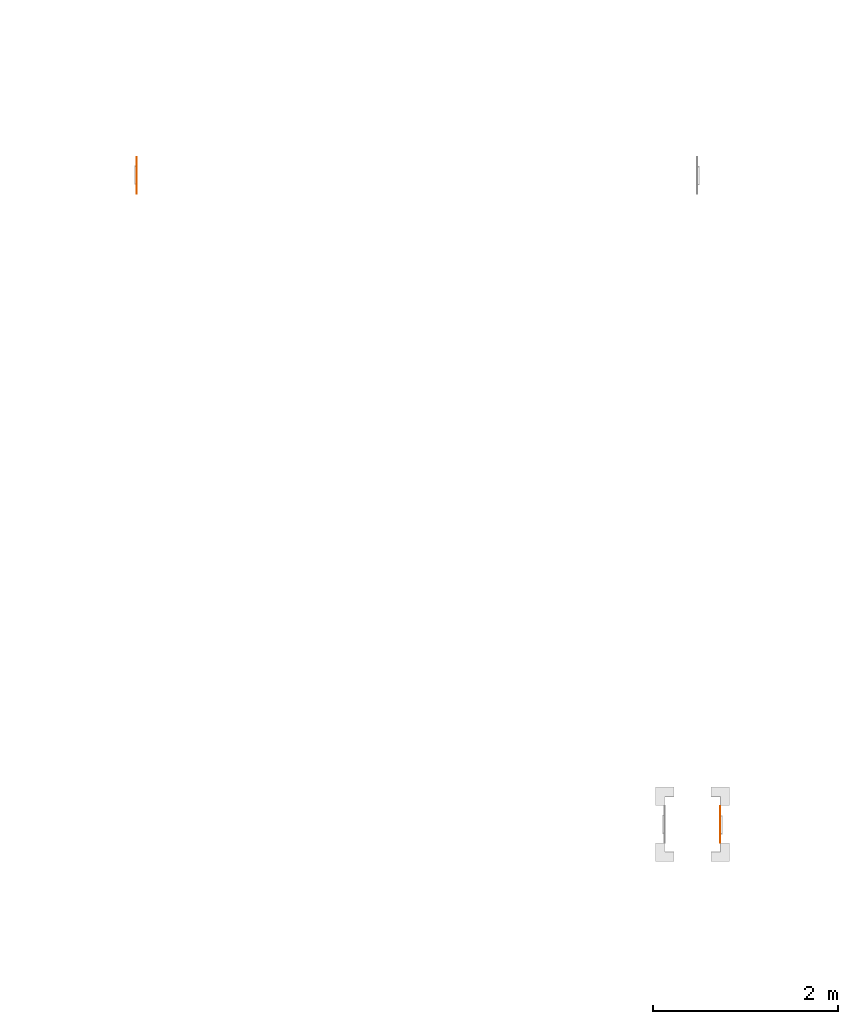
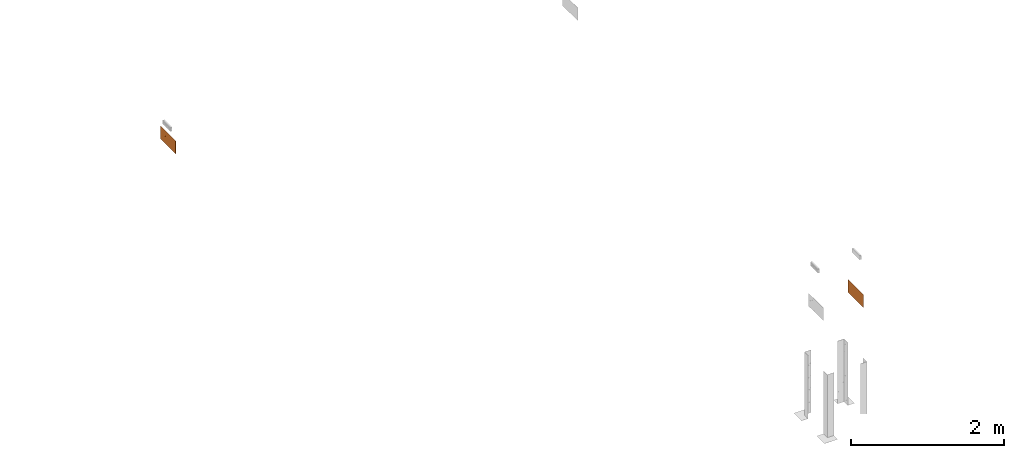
# One storey, part 54 of 119: 2 proxies.
"""IFC2X3 building model written with IfcOpenShell, lengths in metres."""

from ifc_helpers import new_model, entity, si_unit, converted_unit, derived_unit, direction, frame, frame_2d, origin, origin_2d_with_axis, place, context, subcontext, project, spatial, polyline, circle_curve, parameter, trimmed, segment, composite_curve, rectangle, outline, extrude, source, transform, mapped, material, material_list, type_object, type_shapes, element, save


model = new_model("IFC2X3")

# Units and contexts
model_context = context("Model", 3, precision=1e-05, world=origin(), true_north=direction((6.12303176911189e-17, 1.0)))
body_context = subcontext(model_context, "Body", "Model", "MODEL_VIEW")
ifc_project = project(units=[si_unit("LENGTHUNIT", "METRE"), si_unit("AREAUNIT", "SQUARE_METRE"), si_unit("VOLUMEUNIT", "CUBIC_METRE"), converted_unit("PLANEANGLEUNIT", "DEGREE", entity("IfcRatioMeasure", 0.0174532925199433), si_unit("PLANEANGLEUNIT", "RADIAN"), dimensions=[0, 0, 0, 0, 0, 0, 0]), si_unit("MASSUNIT", "GRAM", prefix="KILO"), derived_unit("MASSDENSITYUNIT", [(si_unit("MASSUNIT", "GRAM", prefix="KILO"), 1), (si_unit("LENGTHUNIT", "METRE"), -3)]), derived_unit("MOMENTOFINERTIAUNIT", [(si_unit("LENGTHUNIT", "METRE"), 4)]), si_unit("TIMEUNIT", "SECOND"), si_unit("FREQUENCYUNIT", "HERTZ"), si_unit("THERMODYNAMICTEMPERATUREUNIT", "DEGREE_CELSIUS"), derived_unit("THERMALTRANSMITTANCEUNIT", [(si_unit("MASSUNIT", "GRAM", prefix="KILO"), 1), (si_unit("THERMODYNAMICTEMPERATUREUNIT", "KELVIN"), -1), (si_unit("TIMEUNIT", "SECOND"), -3)]), derived_unit("VOLUMETRICFLOWRATEUNIT", [(si_unit("LENGTHUNIT", "METRE"), 3), (si_unit("TIMEUNIT", "SECOND"), -1)]), si_unit("ELECTRICCURRENTUNIT", "AMPERE"), si_unit("ELECTRICVOLTAGEUNIT", "VOLT"), si_unit("POWERUNIT", "WATT"), si_unit("FORCEUNIT", "NEWTON", prefix="KILO"), si_unit("ILLUMINANCEUNIT", "LUX"), si_unit("LUMINOUSFLUXUNIT", "LUMEN"), si_unit("LUMINOUSINTENSITYUNIT", "CANDELA"), derived_unit("USERDEFINED", [(si_unit("MASSUNIT", "GRAM", prefix="KILO"), -1), (si_unit("LENGTHUNIT", "METRE"), -2), (si_unit("TIMEUNIT", "SECOND"), 3), (si_unit("LUMINOUSFLUXUNIT", "LUMEN"), 1)]), derived_unit("LINEARVELOCITYUNIT", [(si_unit("LENGTHUNIT", "METRE"), 1), (si_unit("TIMEUNIT", "SECOND"), -1)]), si_unit("PRESSUREUNIT", "PASCAL"), derived_unit("USERDEFINED", [(si_unit("LENGTHUNIT", "METRE"), -2), (si_unit("MASSUNIT", "GRAM", prefix="KILO"), 1), (si_unit("TIMEUNIT", "SECOND"), -2)]), derived_unit("LINEARFORCEUNIT", [(si_unit("MASSUNIT", "GRAM", prefix="KILO"), 1), (si_unit("LENGTHUNIT", "METRE"), 1), (si_unit("TIMEUNIT", "SECOND"), -2), (si_unit("LENGTHUNIT", "METRE"), -1)]), derived_unit("PLANARFORCEUNIT", [(si_unit("MASSUNIT", "GRAM", prefix="KILO"), 1), (si_unit("LENGTHUNIT", "METRE"), 1), (si_unit("TIMEUNIT", "SECOND"), -2), (si_unit("LENGTHUNIT", "METRE"), -2)])], contexts=[model_context])

# Site, building, storey
site_placement = place(None, origin())
site = spatial("IfcSite", under=ifc_project, at=site_placement, Name="Default", CompositionType="ELEMENT")
building_placement = place(site_placement, origin())
building = spatial("IfcBuilding", under=site, at=building_placement, CompositionType="ELEMENT")
storey_placement = place(building_placement, origin())
storey = spatial("IfcBuildingStorey", under=building, at=storey_placement, Name="PAV. 01 - TÉRREO", CompositionType="ELEMENT", Elevation=0.0)

# Proxies
ifc_material_1 = material(Name="Plastico branco")
ifc_material_2 = material(Name="Plastico Verde")
ifc_material_list_1 = material_list([ifc_material_1, ifc_material_2])
building_element_proxy_type_1 = type_object("IfcBuildingElementProxyType", Name="Sinalização de orientação - S02 - Indicação do sentido da saída de emergência esquerda:Distância 12m", PredefinedType="NOTDEFINED", material=ifc_material_1)
shared_shape_1 = source(origin(), body_context, "Body", "SweptSolid", [
    extrude(outline(polyline([(-0.0269307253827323, -0.024231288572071), (-0.0259628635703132, -0.024231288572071), (-0.0248498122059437, -0.0234083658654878), (-0.0236286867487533, -0.0219305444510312), (-0.0223366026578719, -0.0199658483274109), (-0.0210106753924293, -0.0176823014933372), (-0.0159905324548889, -0.00832626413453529), (-0.0136800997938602, -0.00426313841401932), (-0.0125256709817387, -0.00238736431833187), (-0.0113513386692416, -0.000610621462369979), (-0.0101417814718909, 0.0010707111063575), (-0.00888166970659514, 0.00266026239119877), (-0.00754048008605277, 0.00417640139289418), (-0.00604105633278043, 0.00568273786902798), (-0.00429732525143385, 0.00725153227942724), (-0.00222321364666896, 0.00895504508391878), (0.000267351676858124, 0.010865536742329), (0.0161156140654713, 0.0220225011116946), (0.00541084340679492, 0.027666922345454), (0.004563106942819, 0.0280964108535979), (0.00398677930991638, 0.0283743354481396), (0.00361343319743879, 0.0285356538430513), (0.00337464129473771, 0.0286153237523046), (0.0032019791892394, 0.0286482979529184), (0.00303386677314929, 0.0286578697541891), (0.00283021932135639, 0.0286307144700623), (0.00255516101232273, 0.02854633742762), (0.00217281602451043, 0.0283842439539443), (0.00164730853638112, 0.0281239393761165), (0.000942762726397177, 0.0277449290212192), (-0.0154440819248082, 0.0179800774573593), (-0.0169906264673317, 0.0173662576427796), (-0.0184263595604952, 0.0170104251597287), (-0.0197467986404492, 0.0168906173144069), (-0.0209474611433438, 0.0169848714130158), (-0.0220238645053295, 0.017271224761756), (-0.0229715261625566, 0.0177277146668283), (-0.0237859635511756, 0.0183323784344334), (-0.0244626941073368, 0.0190632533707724), (-0.0249972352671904, 0.0198983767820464), (-0.025385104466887, 0.0208157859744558), (-0.0256218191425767, 0.0217935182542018), (-0.02570289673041, 0.0228096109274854), (-0.0256238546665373, 0.023842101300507), (-0.0253802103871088, 0.024869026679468), (-0.024967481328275, 0.0258684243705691), (-0.0243811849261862, 0.026818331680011), (-0.0236168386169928, 0.0276967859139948), (-0.022669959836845, 0.0284818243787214), (-0.012358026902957, 0.0349145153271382), (-0.0056365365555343, 0.0389186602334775), (-0.00143098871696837, 0.0410123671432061), (0.00133311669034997, 0.0417137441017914), (0.00371952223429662, 0.0415365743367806), (0.00635115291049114, 0.0408174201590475), (0.00926485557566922, 0.0396572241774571), (0.0124569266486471, 0.0381406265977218), (0.0382522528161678, 0.0245317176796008), (0.0409647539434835, 0.0230291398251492), (0.0432264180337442, 0.021505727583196), (0.0450948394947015, 0.0197223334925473), (0.0466276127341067, 0.0174398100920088), (0.0478823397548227, 0.0144190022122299), (0.0489477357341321, 0.0103891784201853), (0.0500145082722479, 0.00497609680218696), (0.0529984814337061, -0.0115815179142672), (0.0687826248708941, -0.0199385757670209), (0.101976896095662, 0.0427561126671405), (0.00232291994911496, 0.0955188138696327), (-0.0513007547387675, -0.00576130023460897), (-0.0561261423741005, -0.00320645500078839), (-0.0853051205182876, -0.0156605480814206), (-0.0628396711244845, -0.0275550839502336), (-0.0734521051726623, -0.0475990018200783), (-0.0904241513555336, -0.0529832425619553), (-0.0204118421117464, -0.0900518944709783), (-0.00292720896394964, -0.0849390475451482), (0.0122206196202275, -0.0929592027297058), (-0.00693758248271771, -0.0971859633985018), (0.00953030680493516, -0.105905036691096), (0.0262018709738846, -0.100361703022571), (0.0628213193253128, -0.0311978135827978), (0.0451218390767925, -0.0218302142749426), (0.0436304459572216, -0.0209809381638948), (0.0424868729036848, -0.020192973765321), (0.041614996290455, -0.0193663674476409), (0.0409386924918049, -0.0184011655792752), (0.0403818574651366, -0.0171974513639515), (0.0398810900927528, -0.0156792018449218), (0.0394075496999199, -0.0138354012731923), (0.0389382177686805, -0.0116659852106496), (0.0366426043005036, 0.000269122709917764), (0.0172569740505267, -0.0138624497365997), (0.0147941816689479, -0.0880984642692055), (-0.000353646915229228, -0.0800783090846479), (-0.000324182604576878, -0.0142849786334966), (-0.0124368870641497, -0.0319051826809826), (-0.0138384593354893, -0.0341119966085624), (-0.0151491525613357, -0.0360250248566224), (-0.0164165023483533, -0.0376353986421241), (-0.0176880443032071, -0.0389342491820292), (-0.0190113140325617, -0.0399127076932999), (-0.0204338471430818, -0.0405619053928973), (-0.0220031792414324, -0.0408729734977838), (-0.0237668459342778, -0.0408370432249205), (-0.025772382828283, -0.0404452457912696), (-0.0280673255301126, -0.0396887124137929), (-0.0306992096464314, -0.0385585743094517), (-0.0337155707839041, -0.0370459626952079), (-0.0714172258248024, -0.0170844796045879), (-0.0536029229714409, -0.0101094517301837), (-0.0269307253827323, -0.024231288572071)]), holes=[composite_curve([segment(trimmed(circle_curve(frame_2d((0.0517161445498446, 0.0359195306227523), x_axis=(0.883770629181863, -0.46792037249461)), 0.0134), [parameter(180.0)], [parameter(360.0)], True, "PARAMETER"), False, "CONTINUOUS"), segment(trimmed(circle_curve(frame_2d((0.0517161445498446, 0.0359195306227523), x_axis=(0.883770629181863, -0.46792037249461)), 0.0134), [parameter(2.03555499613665e-13)], [parameter(180.0)], True, "PARAMETER"), False, "CONTINUOUS")], self_intersect=False)]), frame((0.112957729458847, -0.00110000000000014, 1.90431633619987), z_axis=(0.0, 1.0, 0.0), x_axis=(-0.883770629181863, 0.0, 0.46792037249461)), (0.0, 0.0, 1.0), 0.0011),
    extrude(outline(polyline([(-0.197500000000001, -0.102500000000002), (0.197500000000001, -0.102500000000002), (0.197500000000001, 0.102500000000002), (-0.197500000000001, 0.102500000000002), (-0.197500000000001, -0.102500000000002)]), holes=[polyline([(-0.190000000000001, -0.0950000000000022), (-0.190000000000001, 0.0949999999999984), (0.189999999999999, 0.0949999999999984), (0.189999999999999, -0.0950000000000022), (-0.190000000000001, -0.0950000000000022)])]), frame((0.0, -0.0011, 1.9025), z_axis=(0.0, 1.0, 0.0), x_axis=(1.0, 0.0, 0.0)), (0.0, 0.0, 1.0), 0.0011),
    extrude(rectangle(XDim=0.38, YDim=0.001, at=origin_2d_with_axis()), frame((0.0, -0.0005, 1.8075)), (0.0, 0.0, 1.0), 0.190000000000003),
    extrude(outline(polyline([(-0.0341511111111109, -0.0575999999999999), (0.016628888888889, -0.0575999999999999), (-0.0218311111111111, -0.0191399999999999), (0.0852288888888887, -0.0191399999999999), (0.0852288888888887, 0.0191400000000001), (-0.0218311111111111, 0.0191400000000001), (0.016628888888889, 0.0576000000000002), (-0.0341511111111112, 0.0576000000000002), (-0.0917511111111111, 0.0), (-0.0341511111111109, -0.0575999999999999)])), frame((-0.0852288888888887, -0.0011, 1.9025), z_axis=(0.0, 1.0, 0.0), x_axis=(1.0, 0.0, 0.0)), (0.0, 0.0, 1.0), 0.0011),
])
type_shapes(building_element_proxy_type_1, [shared_shape_1])
proxy_1_placement = place(storey_placement, frame((46.9738241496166, 0.425057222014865, 0.0), z_axis=(0.0, 0.0, 1.0), x_axis=(0.0, 1.0, 0.0)))
element("IfcBuildingElementProxy", 1, at=proxy_1_placement, inside=storey, type_object=building_element_proxy_type_1, material=ifc_material_list_1, Name="Sinalização de orientação - S02 - Indicação do sentido da saída de emergência esquerda:Distância 12m", ObjectType="Sinalização de orientação - S02 - Indicação do sentido da saída de emergência esquerda:Distância 12m", context=body_context, shape_type="MappedRepresentation", body=[
    mapped(shared_shape_1, transform((0.0, 0.0, 0.0), scale=1.0)),
])
ifc_material_list_2 = material_list([ifc_material_1, ifc_material_2])
building_element_proxy_type_2 = type_object("IfcBuildingElementProxyType", Name="Sinalização de orientação - S03 - Indicação de uma saída de emergência a ser afixada acima da porta:Distância 12m", PredefinedType="NOTDEFINED", material=ifc_material_1)
shared_shape_2 = source(origin(), body_context, "Body", "SweptSolid", [
    extrude(outline(polyline([(0.0124622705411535, 0.0340163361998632), (0.0116069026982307, 0.0335634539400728), (0.0110082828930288, 0.0323153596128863), (0.0106205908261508, 0.0304379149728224), (0.0103980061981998, 0.0280969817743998), (0.0102947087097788, 0.0254584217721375), (0.0102359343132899, 0.01484080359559), (0.0100952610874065, 0.0101688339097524), (0.00995272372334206, 0.00797089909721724), (0.00974625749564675, 0.00585117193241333), (0.00946401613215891, 0.00379928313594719), (0.00909414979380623, 0.00180485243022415), (0.00861827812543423, -0.000162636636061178), (0.00799797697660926, -0.00219550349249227), (0.0071909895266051, -0.00439788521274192), (0.00615505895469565, -0.00687391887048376), (0.00484792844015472, -0.00972774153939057), (0.00322734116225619, -0.0130634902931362), (-0.00393772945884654, -0.0270036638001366), (0.00911414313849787, -0.0269659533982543), (0.00975353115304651, -0.0269418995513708), (0.0101589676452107, -0.0269097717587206), (0.0104072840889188, -0.0268684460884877), (0.0105753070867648, -0.0268167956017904), (0.0107283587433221, -0.026746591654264), (0.0108956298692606, -0.0266273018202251), (0.0110992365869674, -0.0264240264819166), (0.0113612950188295, -0.0261018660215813), (0.0117039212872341, -0.0256259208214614), (0.0121492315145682, -0.0249612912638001), (0.0134363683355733, -0.0229263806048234), (0.0220622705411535, -0.00866366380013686), (0.0231418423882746, -0.00739752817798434), (0.024244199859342, -0.00641124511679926), (0.0253551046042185, -0.00568750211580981), (0.026460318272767, -0.00520898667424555), (0.0275456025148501, -0.00495838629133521), (0.0285967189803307, -0.00491838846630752), (0.0295994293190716, -0.00507168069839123), (0.0305394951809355, -0.00540095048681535), (0.0314026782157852, -0.00588888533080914), (0.0321747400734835, -0.00651817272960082), (0.0328414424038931, -0.00727150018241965), (0.033388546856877, -0.00813155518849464), (0.0338018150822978, -0.00908102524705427), (0.0340670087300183, -0.0101025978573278), (0.0341698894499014, -0.011178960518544), (0.0340962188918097, -0.0122928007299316), (0.0338317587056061, -0.0134268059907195), (0.0333622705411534, -0.0145636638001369), (0.027258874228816, -0.025073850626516), (0.0231922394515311, -0.0317577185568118), (0.020455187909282, -0.0355759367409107), (0.0183405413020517, -0.0374891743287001), (0.0161486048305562, -0.0384492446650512), (0.0134863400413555, -0.0390450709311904), (0.0103684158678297, -0.0393831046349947), (0.00683771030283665, -0.0395364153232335), (-0.0223273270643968, -0.0395794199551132), (-0.0254276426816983, -0.0395207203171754), (-0.0281392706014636, -0.0392326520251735), (-0.0306250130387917, -0.0385308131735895), (-0.0330476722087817, -0.0372308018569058), (-0.0355700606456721, -0.0351482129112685), (-0.0383972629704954, -0.0320852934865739), (-0.0418729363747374, -0.027800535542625), (-0.0522577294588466, -0.0145636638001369), (-0.0701177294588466, -0.0145636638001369), (-0.0701177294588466, -0.0855036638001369), (0.0426422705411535, -0.0855036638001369), (0.0426422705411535, 0.0290963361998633), (0.0481022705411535, 0.0290963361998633), (0.0680622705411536, 0.0537563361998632), (0.0426422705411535, 0.0537563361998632), (0.0426422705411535, 0.0764363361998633), (0.0551222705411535, 0.0891363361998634), (-0.0240977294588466, 0.0891363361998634), (-0.0371577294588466, 0.0764363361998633), (-0.0542977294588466, 0.0764363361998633), (-0.039344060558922, 0.0891363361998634), (-0.0579777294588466, 0.0891363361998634), (-0.0701177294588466, 0.0764363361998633), (-0.0701177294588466, -0.0018236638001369), (-0.050092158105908, -0.00182052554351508), (-0.048376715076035, -0.00187323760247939), (-0.0469973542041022, -0.00203451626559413), (-0.0458400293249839, -0.00235707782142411), (-0.0447906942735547, -0.00289363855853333), (-0.0437353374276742, -0.00369689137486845), (-0.0425823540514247, -0.00480435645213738), (-0.0413011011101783, -0.00621227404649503), (-0.0398712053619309, -0.00790993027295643), (-0.0322577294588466, -0.0173836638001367), (-0.0217377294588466, 0.00417633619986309), (-0.0542977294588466, 0.0709363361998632), (-0.0371577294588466, 0.0709363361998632), (-0.00639772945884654, 0.0127763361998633), (-0.00393772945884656, 0.0340163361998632), (-0.00373167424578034, 0.0366224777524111), (-0.00346846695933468, 0.0389264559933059), (-0.00310194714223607, 0.040942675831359), (-0.00258595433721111, 0.0426855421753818), (-0.0018743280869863, 0.0441694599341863), (-0.000920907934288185, 0.0454088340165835), (0.000320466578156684, 0.0464180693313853), (0.00189595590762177, 0.0472115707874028), (0.00385172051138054, 0.0478037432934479), (0.00623392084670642, 0.0482089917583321), (0.00908871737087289, 0.0484417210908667), (0.0124622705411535, 0.0485163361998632), (0.0551222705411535, 0.0485163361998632), (0.0426422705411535, 0.0340163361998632), (0.0124622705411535, 0.0340163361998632)]), holes=[composite_curve([segment(trimmed(circle_curve(frame_2d((-0.0288977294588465, -0.0559436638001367), x_axis=(-1.0, 0.0)), 0.0134), [parameter(180.0)], [parameter(360.0)], True, "PARAMETER"), False, "CONTINUOUS"), segment(trimmed(circle_curve(frame_2d((-0.0288977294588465, -0.0559436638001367), x_axis=(-1.0, 0.0)), 0.0134), [parameter(2.03555499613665e-13)], [parameter(180.0)], True, "PARAMETER"), False, "CONTINUOUS")], self_intersect=False)]), frame((-0.112057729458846, -0.00109999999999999, 2.30431633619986), z_axis=(0.0, -1.0, 0.0), x_axis=(-1.0, 0.0, 0.0)), (0.0, 0.0, -1.0), 0.0011),
    extrude(outline(polyline([(-0.064695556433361, -0.0646955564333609), (0.0167631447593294, -0.0646955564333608), (0.0526700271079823, -0.0287886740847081), (-0.001720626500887, -0.028788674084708), (0.0731619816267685, 0.0460939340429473), (0.0460939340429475, 0.0731619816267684), (-0.028788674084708, -0.00172062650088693), (-0.0287886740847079, 0.0526700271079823), (-0.0646955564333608, 0.0167631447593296), (-0.064695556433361, -0.0646955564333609)])), frame((0.0738000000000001, -0.0011, 2.29950666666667), z_axis=(0.0, 1.0, 0.0), x_axis=(0.707106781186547, 0.0, -0.707106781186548)), (0.0, 0.0, 1.0), 0.0011),
    extrude(rectangle(XDim=0.001, YDim=0.38, at=origin_2d_with_axis()), frame((0.0, -0.0005, 2.2075), z_axis=(0.0, 0.0, 1.0), x_axis=(0.0, 1.0, 0.0)), (0.0, 0.0, 1.0), 0.189999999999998),
    extrude(outline(polyline([(-0.1025, -0.1975), (0.102500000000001, -0.1975), (0.102500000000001, 0.1975), (-0.1025, 0.1975), (-0.1025, -0.1975)]), holes=[polyline([(-0.0949999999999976, -0.190000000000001), (-0.0949999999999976, 0.189999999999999), (0.0950000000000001, 0.189999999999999), (0.0950000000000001, -0.190000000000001), (-0.0949999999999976, -0.190000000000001)])]), frame((0.0, -0.001, 2.3025), z_axis=(0.0, 1.0, 0.0), x_axis=(0.0, 0.0, -1.0)), (0.0, 0.0, 1.0), 0.001),
])
type_shapes(building_element_proxy_type_2, [shared_shape_2])
proxy_2_placement = place(storey_placement, frame((40.6740605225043, 7.43338193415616, 0.0), z_axis=(0.0, 0.0, 1.0), x_axis=(0.0, -1.0, 0.0)))
element("IfcBuildingElementProxy", 2, at=proxy_2_placement, inside=storey, type_object=building_element_proxy_type_2, material=ifc_material_list_2, Name="Sinalização de orientação - S03 - Indicação de uma saída de emergência a ser afixada acima da porta:Distância 12m", ObjectType="Sinalização de orientação - S03 - Indicação de uma saída de emergência a ser afixada acima da porta:Distância 12m", context=body_context, shape_type="MappedRepresentation", body=[
    mapped(shared_shape_2, transform((0.0, 0.0, 0.0), scale=1.0)),
])

save(model, "model.ifc")
